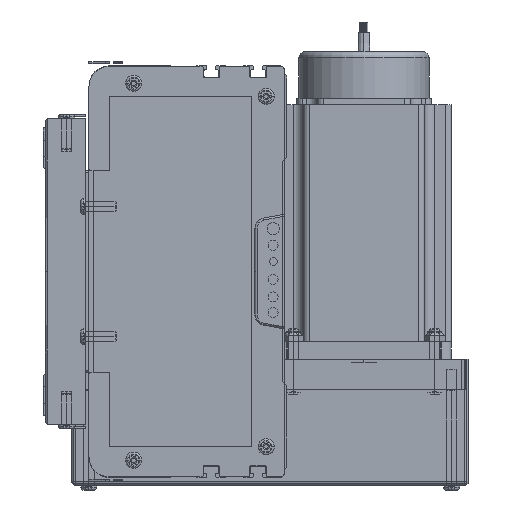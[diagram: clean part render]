
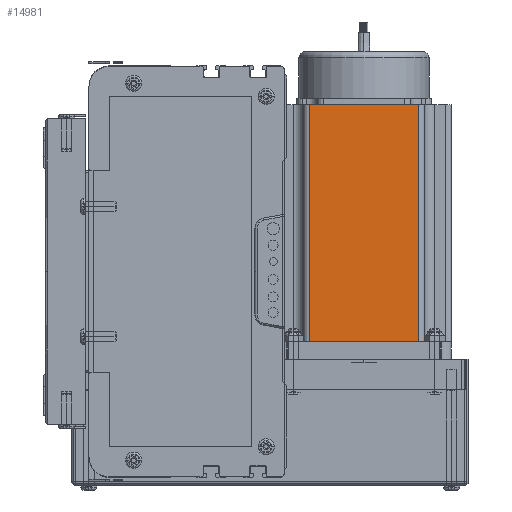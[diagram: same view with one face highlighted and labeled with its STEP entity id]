
A CAD part, left-side view. The second image highlights one B-rep face of the part: STEP entity #14981.
In plain terms, the highlighted planar face has unit normal (-1, 0, 0) as drawn and (0, -1, 0) by its records, which use the part's own axes.
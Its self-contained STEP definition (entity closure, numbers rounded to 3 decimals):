
#14969 = ORIENTED_EDGE ( 'NONE', *, *, #15639, .T. ) ;
#14981 = ADVANCED_FACE ( 'NONE', ( #104769 ), #104764, .F. ) ;
#15001 = EDGE_LOOP ( 'NONE', ( #15559, #14969, #15463, #15477 ) ) ;
#15015 = EDGE_CURVE ( 'NONE', #15489, #15475, #104801, .T. ) ;
#15463 = ORIENTED_EDGE ( 'NONE', *, *, #15631, .F. ) ;
#15469 = EDGE_CURVE ( 'NONE', #15582, #15489, #78367, .T. ) ;
#15475 = VERTEX_POINT ( 'NONE', #78560 ) ;
#15477 = ORIENTED_EDGE ( 'NONE', *, *, #15469, .T. ) ;
#15487 = VERTEX_POINT ( 'NONE', #78572 ) ;
#15489 = VERTEX_POINT ( 'NONE', #78475 ) ;
#15559 = ORIENTED_EDGE ( 'NONE', *, *, #15015, .T. ) ;
#15582 = VERTEX_POINT ( 'NONE', #158650 ) ;
#15631 = EDGE_CURVE ( 'NONE', #15582, #15487, #37752, .T. ) ;
#15639 = EDGE_CURVE ( 'NONE', #15475, #15487, #37571, .T. ) ;
#37571 = LINE ( 'NONE', #37584, #37583 ) ;
#37581 = DIRECTION ( 'NONE',  ( 0., 0., 1. ) ) ;
#37583 = VECTOR ( 'NONE', #37581, 1000. ) ;
#37584 = CARTESIAN_POINT ( 'NONE',  ( 69.74, 0., 116.5 ) ) ;
#37672 = DIRECTION ( 'NONE',  ( 1., 0., 0. ) ) ;
#37674 = VECTOR ( 'NONE', #37672, 1000. ) ;
#37750 = CARTESIAN_POINT ( 'NONE',  ( 0., 0., 116.5 ) ) ;
#37752 = LINE ( 'NONE', #37750, #37674 ) ;
#78291 = VECTOR ( 'NONE', #78362, 1000. ) ;
#78362 = DIRECTION ( 'NONE',  ( 0., 0., -1. ) ) ;
#78364 = CARTESIAN_POINT ( 'NONE',  ( 16.16, 0., 116.5 ) ) ;
#78367 = LINE ( 'NONE', #78364, #78291 ) ;
#78475 = CARTESIAN_POINT ( 'NONE',  ( 16.16, 0., 0. ) ) ;
#78560 = CARTESIAN_POINT ( 'NONE',  ( 69.74, 0., 0. ) ) ;
#78572 = CARTESIAN_POINT ( 'NONE',  ( 69.74, 0., 116.5 ) ) ;
#104729 = CARTESIAN_POINT ( 'NONE',  ( 0., 0., 116.5 ) ) ;
#104750 = DIRECTION ( 'NONE',  ( 0., 1., 0. ) ) ;
#104763 = AXIS2_PLACEMENT_3D ( 'NONE', #104729, #104750, #104776 ) ;
#104764 = PLANE ( 'NONE',  #104763 ) ;
#104769 = FACE_OUTER_BOUND ( 'NONE', #15001, .T. ) ;
#104776 = DIRECTION ( 'NONE',  ( 0., 0., 1. ) ) ;
#104801 = LINE ( 'NONE', #104847, #104804 ) ;
#104804 = VECTOR ( 'NONE', #104846, 1000. ) ;
#104846 = DIRECTION ( 'NONE',  ( 1., 0., 0. ) ) ;
#104847 = CARTESIAN_POINT ( 'NONE',  ( 0., 0., 0. ) ) ;
#158650 = CARTESIAN_POINT ( 'NONE',  ( 16.16, 0., 116.5 ) ) ;
